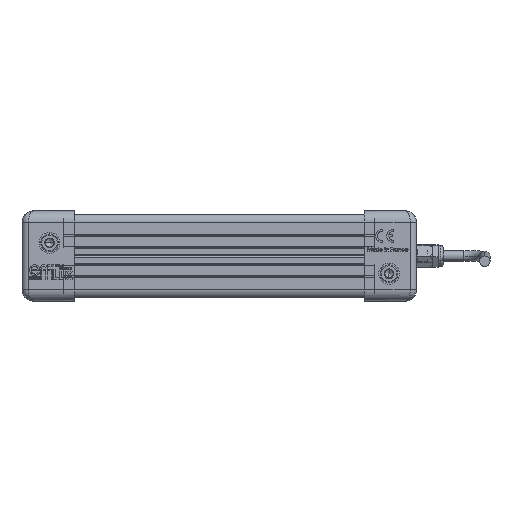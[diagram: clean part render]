
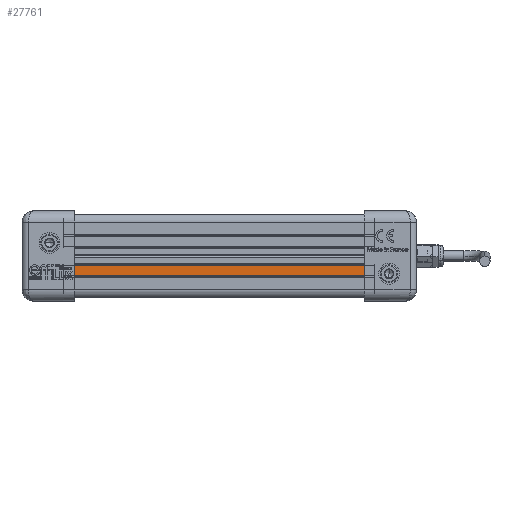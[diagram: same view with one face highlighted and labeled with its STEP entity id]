
A CAD part, front view. The second image highlights one B-rep face of the part: STEP entity #27761.
In plain terms, the highlighted planar face has unit normal (0, -1, 0) as drawn and (-1, 0, 0) by its records, which use the part's own axes.
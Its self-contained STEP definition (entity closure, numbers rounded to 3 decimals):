
#2695 = VERTEX_POINT ( 'NONE', #54738 ) ;
#4133 = DIRECTION ( 'NONE',  ( 0., 1., 0. ) ) ;
#4995 = CARTESIAN_POINT ( 'NONE',  ( -9., -4.5, 0. ) ) ;
#5765 = EDGE_CURVE ( 'NONE', #2695, #54318, #30349, .T. ) ;
#6393 = CARTESIAN_POINT ( 'NONE',  ( -9., -4.5, 149. ) ) ;
#8791 = CARTESIAN_POINT ( 'NONE',  ( -9., -9.5, 149. ) ) ;
#11043 = ORIENTED_EDGE ( 'NONE', *, *, #13624, .T. ) ;
#12389 = LINE ( 'NONE', #59977, #45908 ) ;
#12394 = EDGE_LOOP ( 'NONE', ( #66425, #27967, #27434, #11043 ) ) ;
#13624 = EDGE_CURVE ( 'NONE', #27097, #14599, #12389, .T. ) ;
#13857 = CARTESIAN_POINT ( 'NONE',  ( -9., -4.5, 149. ) ) ;
#14599 = VERTEX_POINT ( 'NONE', #4995 ) ;
#18994 = LINE ( 'NONE', #13857, #44584 ) ;
#22660 = DIRECTION ( 'NONE',  ( 0., 0., -1. ) ) ;
#24413 = PLANE ( 'NONE',  #30522 ) ;
#25484 = EDGE_CURVE ( 'NONE', #14599, #54318, #33197, .T. ) ;
#27097 = VERTEX_POINT ( 'NONE', #6393 ) ;
#27434 = ORIENTED_EDGE ( 'NONE', *, *, #46525, .F. ) ;
#27761 = ADVANCED_FACE ( 'NONE', ( #34657 ), #24413, .F. ) ;
#27967 = ORIENTED_EDGE ( 'NONE', *, *, #5765, .F. ) ;
#29592 = DIRECTION ( 'NONE',  ( 0., -1., 0. ) ) ;
#30184 = DIRECTION ( 'NONE',  ( 1., 0., 0. ) ) ;
#30349 = LINE ( 'NONE', #8791, #45167 ) ;
#30522 = AXIS2_PLACEMENT_3D ( 'NONE', #55539, #30184, #4133 ) ;
#33197 = LINE ( 'NONE', #54057, #60994 ) ;
#34657 = FACE_OUTER_BOUND ( 'NONE', #12394, .T. ) ;
#44584 = VECTOR ( 'NONE', #29592, 1000. ) ;
#45167 = VECTOR ( 'NONE', #45426, 1000. ) ;
#45426 = DIRECTION ( 'NONE',  ( 0., 0., -1. ) ) ;
#45908 = VECTOR ( 'NONE', #22660, 1000. ) ;
#46525 = EDGE_CURVE ( 'NONE', #27097, #2695, #18994, .T. ) ;
#47648 = CARTESIAN_POINT ( 'NONE',  ( -9., -9.5, 0. ) ) ;
#53724 = DIRECTION ( 'NONE',  ( 0., -1., 0. ) ) ;
#54057 = CARTESIAN_POINT ( 'NONE',  ( -9., -4.5, 0. ) ) ;
#54318 = VERTEX_POINT ( 'NONE', #47648 ) ;
#54738 = CARTESIAN_POINT ( 'NONE',  ( -9., -9.5, 149. ) ) ;
#55539 = CARTESIAN_POINT ( 'NONE',  ( -9., -4.5, 149. ) ) ;
#59977 = CARTESIAN_POINT ( 'NONE',  ( -9., -4.5, 149. ) ) ;
#60994 = VECTOR ( 'NONE', #53724, 1000. ) ;
#66425 = ORIENTED_EDGE ( 'NONE', *, *, #25484, .T. ) ;
